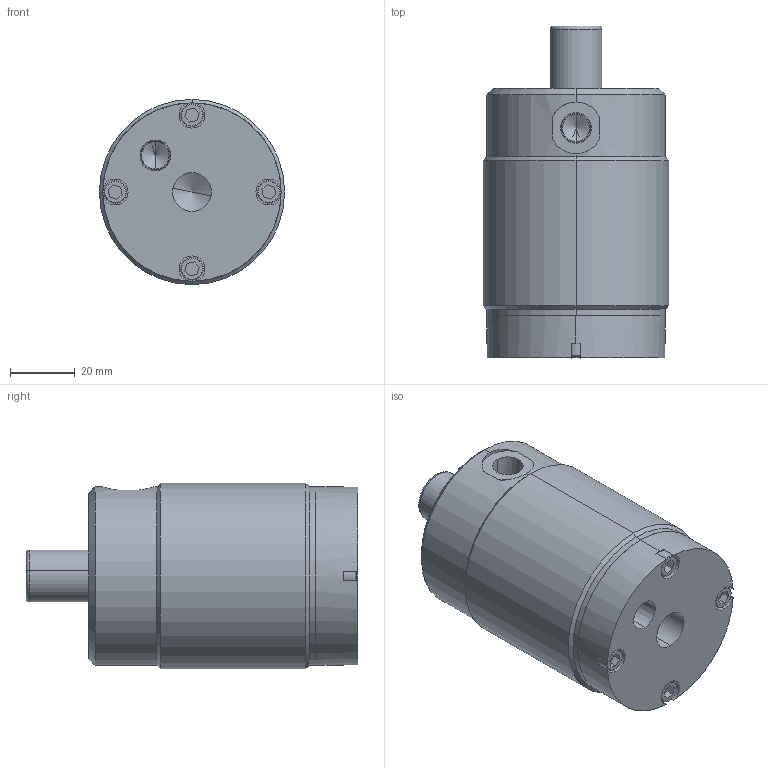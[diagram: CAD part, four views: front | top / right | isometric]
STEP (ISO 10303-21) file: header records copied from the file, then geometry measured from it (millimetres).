
FILE_DESCRIPTION((''),'2;1');
FILE_NAME('001_DESTACO_035_910_ASM','2024-02-28T',('SYSTEM'),(''),'PRO/ENGINEER BY PARAMETRIC TECHNOLOGY CORPORATION, 2016360','PRO/ENGINEER BY PARAMETRIC TECHNOLOGY CORPORATION, 2016360','');
FILE_SCHEMA(('AUTOMOTIVE_DESIGN { 1 0 10303 214 1 1 1 1 }'));
Products named in the file (10): 140BODY_5_RNM; 140BODY_4_RNM; 140BODY_3_RNM; 1; 140BODY_2_RNM; 140BODY_1_RNM; 140-BODY_ASM; 140BODY_6_RNM; 140-SHAFT_ASM; 001_DESTACO_035_910_ASM
Assembly tree (9 placements, depth 3):
  001_DESTACO_035_910_ASM
    140-BODY_ASM
      140BODY_5_RNM
      140BODY_4_RNM
      140BODY_3_RNM
      1
      140BODY_2_RNM
      140BODY_1_RNM
    140-SHAFT_ASM
      140BODY_6_RNM
Bounding box: 57.2 x 102.5 x 57.2 mm (x, y, z)
Volume: 200487 mm3; surface area: 37370.5 mm2
Topology: 7 solids, 7 shells, 167 faces, 385 edges, 234 vertices
Faces by surface type: cylinder 68, plane 53, cone 44, torus 2
Entity records: 6570 total; most frequent: DIRECTION 927, CARTESIAN_POINT 912, ORIENTED_EDGE 738, PRESENTATION_STYLE_ASSIGNMENT 376, STYLED_ITEM 376, CURVE_STYLE 369, AXIS2_PLACEMENT_3D 369, EDGE_CURVE 369
